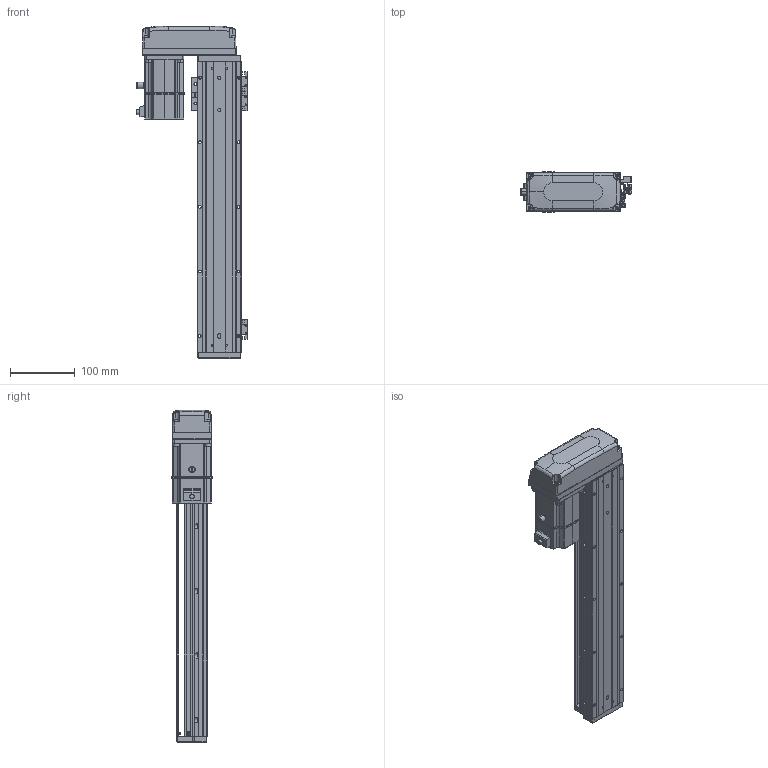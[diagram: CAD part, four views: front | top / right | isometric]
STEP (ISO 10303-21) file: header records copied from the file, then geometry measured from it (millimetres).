
FILE_DESCRIPTION (( 'STEP AP203' ), '1' );
FILE_NAME ('KTHA60-350-BR-M20-C4L.step', '2022-12-16T01:39:01', ( '微软用户' ), ( '微软中国' ), 'SwSTEP 2.0', 'SolidWorks 2020', '' );
FILE_SCHEMA (( 'CONFIG_CONTROL_DESIGN' ));
Length unit declared in the file: millimetre
Products named in the file (17): CTHA60-017; BTH80-026; KTHA60-001_450; CTHA60-021; CTHA60-006-2_CTHA60-006-2; KTHA60-004; GBT 70.1-M4×16; _X2_4E0983F1_X0_200W_1; KTHA60-005; GBT77-2000M3-3; KTHA60-350-BR-M20-C4L; GB¨uT 70.2-M3¡Á5_M3¡Á6; GBT 70.1-M3℅6; GBT 70.3-M3℅6; CTHA60-016; EE_SX911P_R; KTHA60-002
Assembly tree (51 placements, depth 2):
  KTHA60-350-BR-M20-C4L
    KTHA60-001_450
    KTHA60-004
    KTHA60-005
    GB¨uT 70.2-M3¡Á5_M3¡Á6  x6
    GBT 70.3-M3℅6  x4
    EE_SX911P_R  x3
    CTHA60-017  x3
    CTHA60-021  x2
    GBT 70.1-M4×16  x8
    GBT77-2000M3-3  x6
    GBT 70.1-M3℅6  x10
    CTHA60-016  x2
    KTHA60-002
    BTH80-026
    CTHA60-006-2_CTHA60-006-2
    _X2_4E0983F1_X0_200W_1
Bounding box: 173.02 x 62.42 x 514 mm (x, y, z)
Volume: 1250362.2 mm3; surface area: 330138.3 mm2
Topology: 54 solids, 54 shells, 2408 faces, 5717 edges, 3514 vertices
Faces by surface type: plane 1273, cylinder 638, cone 280, bspline 109, torus 92, sphere 16
Entity records: 44240 total; most frequent: CARTESIAN_POINT 10370, ORIENTED_EDGE 6482, DIRECTION 6478, EDGE_CURVE 3241, AXIS2_PLACEMENT_3D 2241, VERTEX_POINT 2023, LINE 1996, VECTOR 1996
